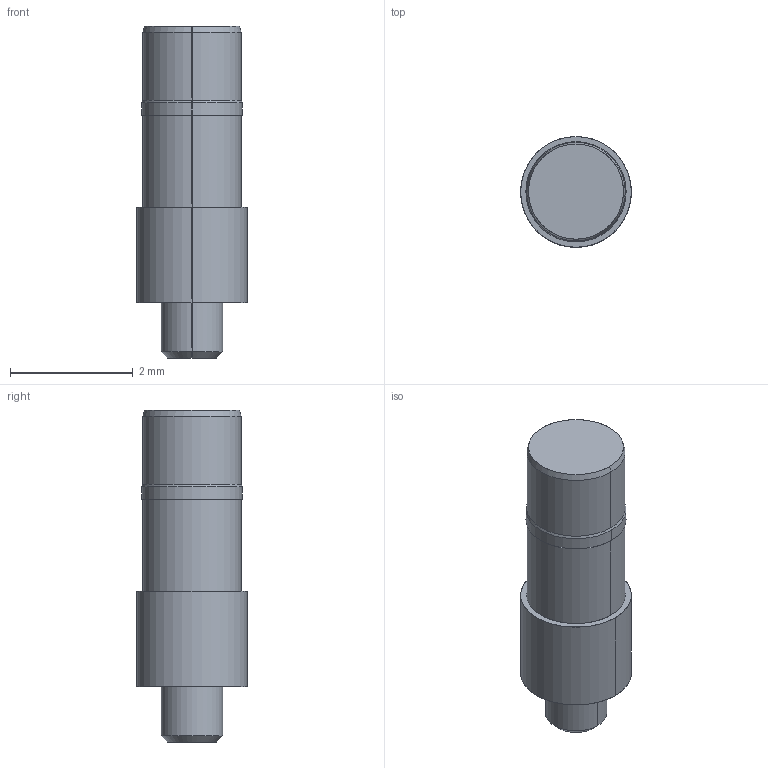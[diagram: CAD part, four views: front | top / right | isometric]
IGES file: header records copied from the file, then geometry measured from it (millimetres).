
Start section: SolidWorks IGES file using analytic representation for surfaces
Global section: file name: \\CODA-VM-SBS\RedirectedFolders\GeorgeD\My Documents\CODA CAD FILES\INTERFACING COMPONENTS\CONTACT LANDS\IPP0RT.IGS; native system: SolidWorks 2022; preprocessor: SolidWorks 2022; author: GeorgeD; date: 240416.113151; units: millimetre
Bounding box: 1.8 x 1.8 x 5.4 mm (x, y, z)
Surface area: 31.3 mm2 (no closed solid volume)
Topology: 0 solids, 0 shells, 21 faces, 224 edges, 224 vertices
Faces by surface type: revolution 16, bspline 5
